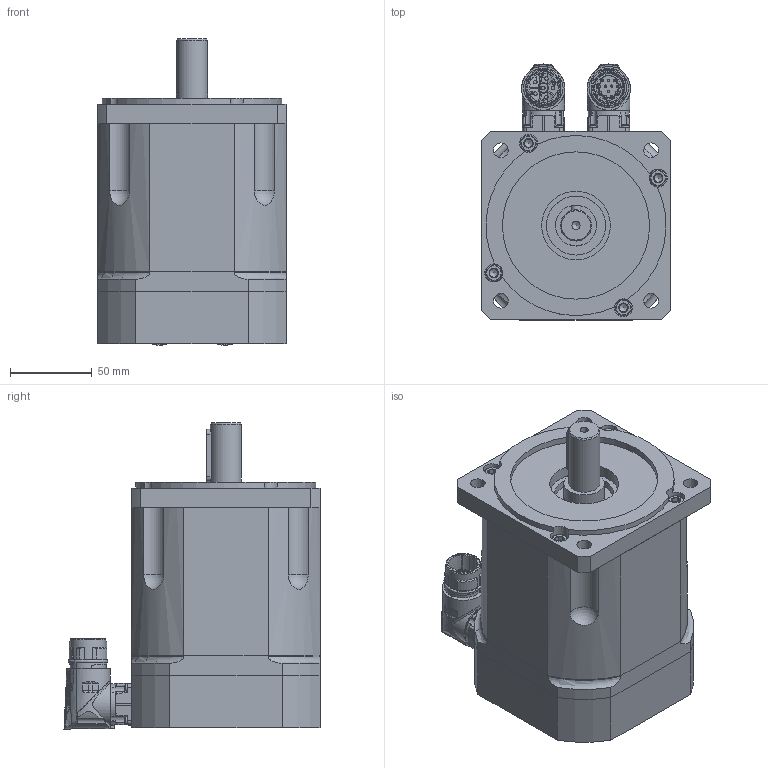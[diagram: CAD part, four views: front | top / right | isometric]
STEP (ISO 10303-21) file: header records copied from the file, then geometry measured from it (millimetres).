
FILE_DESCRIPTION(/* description */ (''),/* implementation_level */ '2;1');
FILE_NAME(/* name */ 'C:\Users\Public\Documents\Autodesk\Inventor LT 2014\Workspace\Motori Sito WEB\TG_4\STEP_DSM5_4x\DSM5_41_x097.stp',/* time_stamp */ '2021-03-31T14:13:15+02:00',/* author */ ('marcor'),/* organization */ (''),/* preprocessor_version */ 'ST-DEVELOPER v15.2',/* originating_system */ 'Autodesk Inventor LT ',/* authorisation */ '');
FILE_SCHEMA (('AUTOMOTIVE_DESIGN { 1 0 10303 214 3 1 1 }'));
Products named in the file (1): DSM5_41_x097
Bounding box: 115 x 156.5 x 187.41 mm (x, y, z)
Volume: 1806858.3 mm3; surface area: 197434.1 mm2
Topology: 16 solids, 26 shells, 1467 faces, 3841 edges, 2557 vertices
Faces by surface type: plane 522, cylinder 438, cone 287, bspline 113, torus 75, sphere 32
Full cylindrical faces by diameter (mm): 1.2 x12, 2.224 x8, 2.233 x6, 2.5 x8, 2.88 x8, 3.26 x8, 4.134 x4, 4.5 x2, 4.8 x8, 4.917 x9, 5 x4, 5.5 x7, 5.9 x2, 6 x8, 6.5 x8, 8.5 x4, 9 x4, 10 x12, 11 x8, 15.2 x1, 17.4 x3, 18 x1, 19 x1, 19.8 x1, 21.15 x4, 21.6 x1, 21.653 x2, 23.8 x1, 24.3 x2, 24.9 x1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
Entity records: 52212 total; most frequent: CARTESIAN_POINT 17847, ORIENTED_EDGE 6830, DIRECTION 6361, EDGE_CURVE 3415, AXIS2_PLACEMENT_3D 2585, VERTEX_POINT 2445, EDGE_LOOP 1970, ADVANCED_FACE 1467
